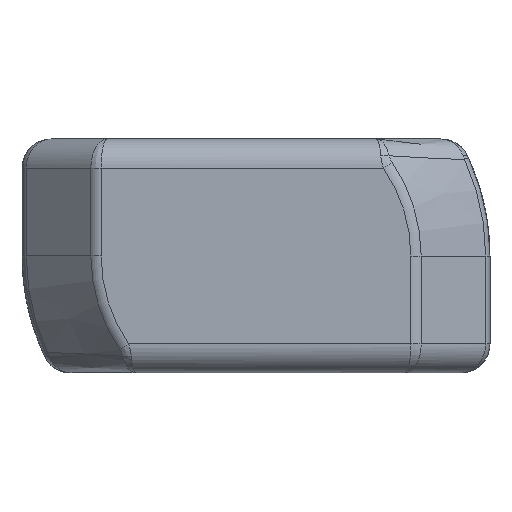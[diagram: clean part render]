
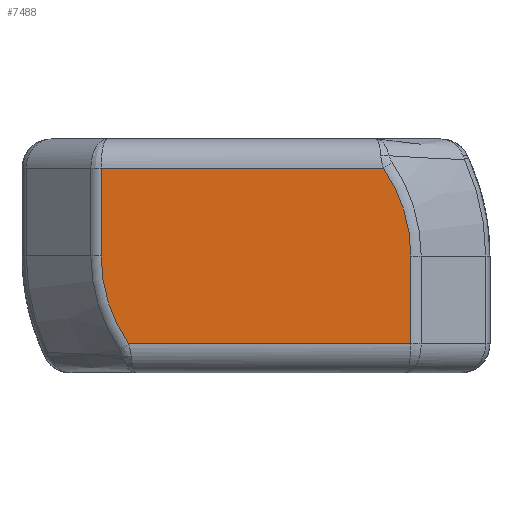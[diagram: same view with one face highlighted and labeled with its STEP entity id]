
A CAD part, front view. The second image highlights one B-rep face of the part: STEP entity #7488.
In plain terms, the highlighted planar face has unit normal (0, -1, 0).
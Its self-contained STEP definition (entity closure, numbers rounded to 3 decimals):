
#37 = LINE ( 'NONE', #5193, #2487 ) ;
#123 = ORIENTED_EDGE ( 'NONE', *, *, #1214, .T. ) ;
#868 = EDGE_LOOP ( 'NONE', ( #1749, #1558, #123, #6615, #3730, #5951 ) ) ;
#922 = CIRCLE ( 'NONE', #4605, 5.293 ) ;
#1010 = CARTESIAN_POINT ( 'NONE',  ( 4.361, 0., 3. ) ) ;
#1214 = EDGE_CURVE ( 'NONE', #1719, #6582, #2281, .T. ) ;
#1262 = VERTEX_POINT ( 'NONE', #6831 ) ;
#1558 = ORIENTED_EDGE ( 'NONE', *, *, #8207, .T. ) ;
#1649 = CARTESIAN_POINT ( 'NONE',  ( 5.293, 0., 0. ) ) ;
#1719 = VERTEX_POINT ( 'NONE', #4616 ) ;
#1749 = ORIENTED_EDGE ( 'NONE', *, *, #2193, .T. ) ;
#2061 = CARTESIAN_POINT ( 'NONE',  ( 0., 0., 0. ) ) ;
#2115 = CARTESIAN_POINT ( 'NONE',  ( -5.293, 0., 3. ) ) ;
#2129 = DIRECTION ( 'NONE',  ( 0., 0., -1. ) ) ;
#2193 = EDGE_CURVE ( 'NONE', #2645, #1262, #8521, .T. ) ;
#2281 = LINE ( 'NONE', #1649, #3655 ) ;
#2487 = VECTOR ( 'NONE', #5929, 1000. ) ;
#2645 = VERTEX_POINT ( 'NONE', #9174 ) ;
#2715 = CARTESIAN_POINT ( 'NONE',  ( 0., 0., 3. ) ) ;
#2788 = DIRECTION ( 'NONE',  ( 0., 1., 0. ) ) ;
#3342 = EDGE_CURVE ( 'NONE', #9415, #2645, #4298, .T. ) ;
#3655 = VECTOR ( 'NONE', #7405, 1000. ) ;
#3730 = ORIENTED_EDGE ( 'NONE', *, *, #4925, .T. ) ;
#3937 = VERTEX_POINT ( 'NONE', #1010 ) ;
#4298 = LINE ( 'NONE', #7259, #4934 ) ;
#4336 = AXIS2_PLACEMENT_3D ( 'NONE', #7710, #8330, #7804 ) ;
#4605 = AXIS2_PLACEMENT_3D ( 'NONE', #7207, #6493, #6540 ) ;
#4616 = CARTESIAN_POINT ( 'NONE',  ( 5.293, 0., -3. ) ) ;
#4925 = EDGE_CURVE ( 'NONE', #3937, #9415, #6591, .T. ) ;
#4934 = VECTOR ( 'NONE', #2129, 1000. ) ;
#5193 = CARTESIAN_POINT ( 'NONE',  ( 0., 0., -3. ) ) ;
#5257 = VECTOR ( 'NONE', #5671, 1000. ) ;
#5423 = CARTESIAN_POINT ( 'NONE',  ( 5.293, 0., 0. ) ) ;
#5671 = DIRECTION ( 'NONE',  ( -1., 0., 0. ) ) ;
#5929 = DIRECTION ( 'NONE',  ( 1., 0., 0. ) ) ;
#5951 = ORIENTED_EDGE ( 'NONE', *, *, #3342, .T. ) ;
#6493 = DIRECTION ( 'NONE',  ( 0., -1., 0. ) ) ;
#6540 = DIRECTION ( 'NONE',  ( 0., 0., 1. ) ) ;
#6582 = VERTEX_POINT ( 'NONE', #5423 ) ;
#6591 = LINE ( 'NONE', #2715, #5257 ) ;
#6615 = ORIENTED_EDGE ( 'NONE', *, *, #7029, .T. ) ;
#6831 = CARTESIAN_POINT ( 'NONE',  ( -4.361, 0., -3. ) ) ;
#7029 = EDGE_CURVE ( 'NONE', #6582, #3937, #922, .T. ) ;
#7207 = CARTESIAN_POINT ( 'NONE',  ( 0., 0., 0. ) ) ;
#7241 = PLANE ( 'NONE',  #8661 ) ;
#7259 = CARTESIAN_POINT ( 'NONE',  ( -5.293, 0., 0. ) ) ;
#7405 = DIRECTION ( 'NONE',  ( 0., 0., 1. ) ) ;
#7488 = ADVANCED_FACE ( 'NONE', ( #9517 ), #7241, .F. ) ;
#7710 = CARTESIAN_POINT ( 'NONE',  ( 0., 0., 0. ) ) ;
#7804 = DIRECTION ( 'NONE',  ( 0., 0., 1. ) ) ;
#7921 = DIRECTION ( 'NONE',  ( 1., 0., 0. ) ) ;
#8207 = EDGE_CURVE ( 'NONE', #1262, #1719, #37, .T. ) ;
#8330 = DIRECTION ( 'NONE',  ( 0., -1., 0. ) ) ;
#8521 = CIRCLE ( 'NONE', #4336, 5.293 ) ;
#8661 = AXIS2_PLACEMENT_3D ( 'NONE', #2061, #2788, #7921 ) ;
#9174 = CARTESIAN_POINT ( 'NONE',  ( -5.293, 0., 0. ) ) ;
#9415 = VERTEX_POINT ( 'NONE', #2115 ) ;
#9517 = FACE_OUTER_BOUND ( 'NONE', #868, .T. ) ;
